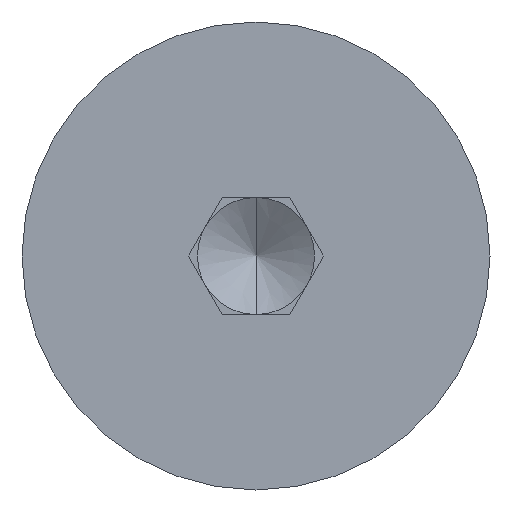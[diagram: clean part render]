
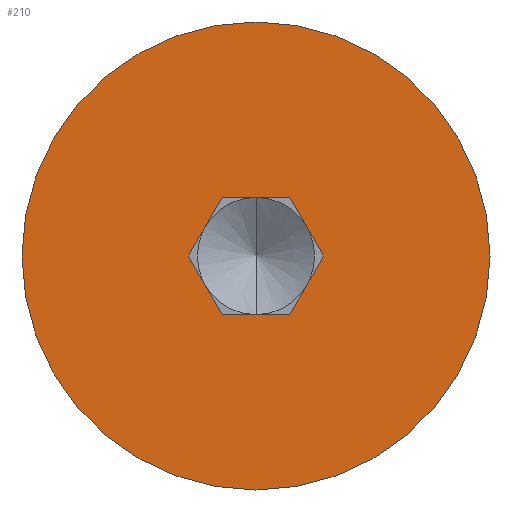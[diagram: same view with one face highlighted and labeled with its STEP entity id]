
A CAD part, left-side view. The second image highlights one B-rep face of the part: STEP entity #210.
In plain terms, the highlighted planar face has unit normal (-1, 0, 0).
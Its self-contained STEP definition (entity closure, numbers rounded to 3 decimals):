
#7 = EDGE_LOOP ( 'NONE', ( #549, #683 ) ) ;
#21 = DIRECTION ( 'NONE',  ( 0., -0.5, 0.866 ) ) ;
#30 = CARTESIAN_POINT ( 'NONE',  ( -1.3, 0., 0. ) ) ;
#33 = AXIS2_PLACEMENT_3D ( 'NONE', #553, #726, #151 ) ;
#38 = CARTESIAN_POINT ( 'NONE',  ( -1.3, -0.866, 0. ) ) ;
#47 = LINE ( 'NONE', #96, #160 ) ;
#55 = EDGE_CURVE ( 'NONE', #282, #622, #439, .T. ) ;
#56 = LINE ( 'NONE', #285, #297 ) ;
#92 = VECTOR ( 'NONE', #266, 1000. ) ;
#96 = CARTESIAN_POINT ( 'NONE',  ( -1.3, -0.433, -0.75 ) ) ;
#108 = VERTEX_POINT ( 'NONE', #652 ) ;
#120 = ORIENTED_EDGE ( 'NONE', *, *, #429, .T. ) ;
#126 = LINE ( 'NONE', #356, #621 ) ;
#135 = EDGE_CURVE ( 'NONE', #455, #108, #310, .T. ) ;
#151 = DIRECTION ( 'NONE',  ( 0., 0., -1. ) ) ;
#153 = EDGE_CURVE ( 'NONE', #625, #455, #47, .T. ) ;
#160 = VECTOR ( 'NONE', #437, 1000. ) ;
#185 = CARTESIAN_POINT ( 'NONE',  ( -1.3, 0.433, 0.75 ) ) ;
#193 = EDGE_CURVE ( 'NONE', #622, #282, #673, .T. ) ;
#210 = ADVANCED_FACE ( 'NONE', ( #498, #564 ), #373, .F. ) ;
#218 = DIRECTION ( 'NONE',  ( -1., 0., 0. ) ) ;
#247 = CARTESIAN_POINT ( 'NONE',  ( -1.3, 0.433, -0.75 ) ) ;
#248 = VERTEX_POINT ( 'NONE', #509 ) ;
#256 = DIRECTION ( 'NONE',  ( -1., 0., 0. ) ) ;
#262 = EDGE_CURVE ( 'NONE', #411, #625, #723, .T. ) ;
#266 = DIRECTION ( 'NONE',  ( 0., 0.5, -0.866 ) ) ;
#267 = ORIENTED_EDGE ( 'NONE', *, *, #135, .T. ) ;
#274 = ORIENTED_EDGE ( 'NONE', *, *, #262, .T. ) ;
#282 = VERTEX_POINT ( 'NONE', #323 ) ;
#285 = CARTESIAN_POINT ( 'NONE',  ( -1.3, 0.433, 0.75 ) ) ;
#290 = LINE ( 'NONE', #387, #364 ) ;
#297 = VECTOR ( 'NONE', #640, 1000. ) ;
#310 = LINE ( 'NONE', #417, #486 ) ;
#318 = EDGE_LOOP ( 'NONE', ( #394, #274, #616, #267, #667, #120 ) ) ;
#323 = CARTESIAN_POINT ( 'NONE',  ( -1.3, 0., -3. ) ) ;
#331 = CARTESIAN_POINT ( 'NONE',  ( -1.3, 0., 0. ) ) ;
#354 = AXIS2_PLACEMENT_3D ( 'NONE', #331, #218, #435 ) ;
#356 = CARTESIAN_POINT ( 'NONE',  ( -1.3, 0.866, 0. ) ) ;
#364 = VECTOR ( 'NONE', #626, 1000. ) ;
#366 = DIRECTION ( 'NONE',  ( 0., 0.5, 0.866 ) ) ;
#371 = DIRECTION ( 'NONE',  ( 0., 0., 1. ) ) ;
#373 = PLANE ( 'NONE',  #33 ) ;
#383 = CARTESIAN_POINT ( 'NONE',  ( -1.3, -0.433, -0.75 ) ) ;
#387 = CARTESIAN_POINT ( 'NONE',  ( -1.3, -0.433, 0.75 ) ) ;
#394 = ORIENTED_EDGE ( 'NONE', *, *, #397, .T. ) ;
#397 = EDGE_CURVE ( 'NONE', #248, #411, #290, .T. ) ;
#411 = VERTEX_POINT ( 'NONE', #518 ) ;
#417 = CARTESIAN_POINT ( 'NONE',  ( -1.3, 0.433, -0.75 ) ) ;
#429 = EDGE_CURVE ( 'NONE', #533, #248, #56, .T. ) ;
#435 = DIRECTION ( 'NONE',  ( 0., 0., 1. ) ) ;
#437 = DIRECTION ( 'NONE',  ( 0., 1., 0. ) ) ;
#439 = CIRCLE ( 'NONE', #638, 3. ) ;
#452 = EDGE_CURVE ( 'NONE', #108, #533, #126, .T. ) ;
#455 = VERTEX_POINT ( 'NONE', #247 ) ;
#486 = VECTOR ( 'NONE', #366, 1000. ) ;
#498 = FACE_OUTER_BOUND ( 'NONE', #7, .T. ) ;
#509 = CARTESIAN_POINT ( 'NONE',  ( -1.3, -0.433, 0.75 ) ) ;
#518 = CARTESIAN_POINT ( 'NONE',  ( -1.3, -0.866, 0. ) ) ;
#533 = VERTEX_POINT ( 'NONE', #185 ) ;
#549 = ORIENTED_EDGE ( 'NONE', *, *, #193, .T. ) ;
#553 = CARTESIAN_POINT ( 'NONE',  ( -1.3, 0., 0. ) ) ;
#564 = FACE_BOUND ( 'NONE', #318, .T. ) ;
#616 = ORIENTED_EDGE ( 'NONE', *, *, #153, .T. ) ;
#621 = VECTOR ( 'NONE', #21, 1000. ) ;
#622 = VERTEX_POINT ( 'NONE', #677 ) ;
#625 = VERTEX_POINT ( 'NONE', #383 ) ;
#626 = DIRECTION ( 'NONE',  ( 0., -0.5, -0.866 ) ) ;
#638 = AXIS2_PLACEMENT_3D ( 'NONE', #30, #256, #371 ) ;
#640 = DIRECTION ( 'NONE',  ( 0., -1., 0. ) ) ;
#652 = CARTESIAN_POINT ( 'NONE',  ( -1.3, 0.866, 0. ) ) ;
#667 = ORIENTED_EDGE ( 'NONE', *, *, #452, .T. ) ;
#673 = CIRCLE ( 'NONE', #354, 3. ) ;
#677 = CARTESIAN_POINT ( 'NONE',  ( -1.3, 0., 3. ) ) ;
#683 = ORIENTED_EDGE ( 'NONE', *, *, #55, .T. ) ;
#723 = LINE ( 'NONE', #38, #92 ) ;
#726 = DIRECTION ( 'NONE',  ( 1., 0., 0. ) ) ;
